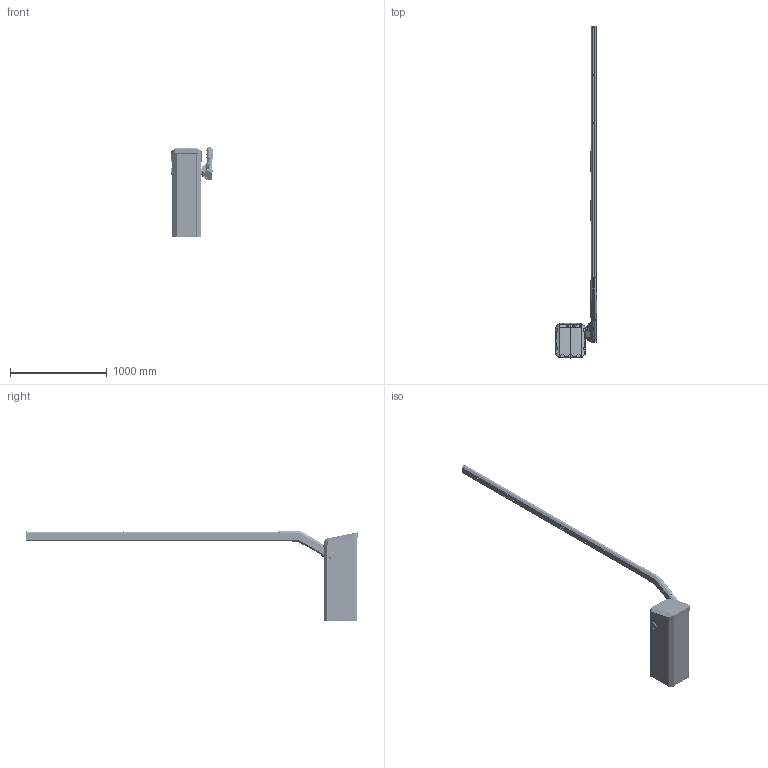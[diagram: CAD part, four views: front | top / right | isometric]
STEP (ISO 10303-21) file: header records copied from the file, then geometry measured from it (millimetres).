
FILE_DESCRIPTION(/* description */ ('Unknown'),/* implementation_level */ '2;1');
FILE_NAME(/* name */ '55860009_01',/* time_stamp */ '2023-03-06T09:32:37+01:00',/* author */ ('Unknown'),/* organization */ ('Unknown'),/* preprocessor_version */ 'ST-DEVELOPER v18.102',/* originating_system */ 'Solid Edge',/* authorisation */ 'Unknown');
FILE_SCHEMA (('AUTOMOTIVE_DESIGN {1 0 10303 214 3 1 1}'));
Products named in the file (73): 55860009; 10525083; 20635347; 20115042; 34635015; 20345374; 34775002; 34915000; 20115041; 55860001_Baum_2575; 55155391_2575; 20115008; 20185229; 20185227; 20180409; 34595007; 35765037; 10315811; 20045100; 20045101; 34845067; 20075012; 34775000; 55860001_Baum_3075; 55155391_3075; 55860001_Baum_2075; 55155391_2075; ACCESS-L-HUELLE_oa_0; 10435375; 20435695; 34685017; 34685017a; 34685017c; 34685017b; 34685017d; 20585064; 20195087; 20435694; 20775048; 10335028_oa_1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
Assembly tree (147 placements, depth 5):
  55860009
    10525083
      20635347
      20115042
      34635015  x10
      20345374  x2
      34775002  x8
      34915000  x2
      20115041  x2
    55860001_Baum_2575
      55155391_2575
        55155391_2575
        20115008
        34915000  x2
        20185229  x5
        20185227  x5
        20180409  x2
        34595007
    35765037
    10315811
      20045100
      20045101
      34845067  x4
      20075012  x2
      34775000  x4
    55860001_Baum_3075
      55155391_3075
      20115008
      34915000  x2
      20185227  x6
      20185229  x6
      20180409
      34595007
    55860001_Baum_2075
      55155391_2075
        55155391_2075
        20115008
        34915000  x2
        20185227  x4
        20185229  x4
        20180409  x2
    ACCESS-L-HUELLE_oa_0
      10435375
        20435695
        34685017
          34685017a
          34685017c
          34685017b
          34685017d
        20585064
      20195087  x2
      20435694
      20775048  x2
      10335028_oa_1
        20375010
      20165183
      10335028
        20695070
        20375010
      10085135
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Bounding box: 434.26 x 3434.21 x 931.91 mm (x, y, z)
Volume: 11395754.6 mm3; surface area: 9232489 mm2
Topology: 132 solids, 132 shells, 9335 faces, 23790 edges, 15010 vertices
Faces by surface type: plane 4506, cylinder 2499, bspline 1497, cone 401, torus 339, sphere 93
Full cylindrical faces by diameter (mm): 0.5 x1, 1.5 x3, 1.8 x1, 3 x10, 3.2 x1, 3.5 x14, 3.6 x8, 3.65 x4, 3.9 x6, 4 x1, 4.134 x2, 4.773 x5, 4.9 x3, 4.917 x24, 5.5 x2, 6 x28, 6.4 x18, 6.5 x9, 6.647 x4, 7 x8, 7.1 x2, 8 x4, 9 x12, 9.853 x4, 10 x16, 10.1 x4, 10.2 x1, 10.4 x1, 10.5 x12, 11 x2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
Entity records: 237958 total; most frequent: CARTESIAN_POINT 101511, ORIENTED_EDGE 28004, DIRECTION 25476, EDGE_CURVE 14002, AXIS2_PLACEMENT_3D 8989, VERTEX_POINT 8935, LINE 7498, VECTOR 7498
